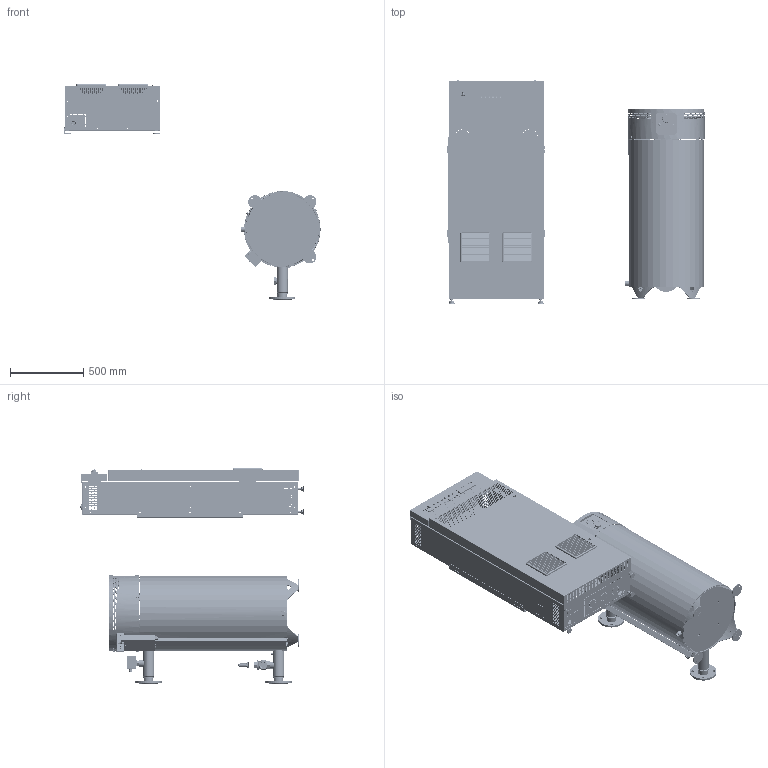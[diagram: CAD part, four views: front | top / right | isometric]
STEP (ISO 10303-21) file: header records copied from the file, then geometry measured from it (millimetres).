
FILE_DESCRIPTION(/* description */ (''),/* implementation_level */ '2;1');
FILE_NAME(/* name */ 'Z:\!!!Обмен файлами\Маркелова Л.В\Задача 144\325-350\Электрокотёл 350 кВт_Shrinkwrap_4.stp',/* time_stamp */ '2022-12-02T11:35:11+03:00',/* author */ ('nvsk-constr2'),/* organization */ (''),/* preprocessor_version */ 'ST-DEVELOPER v18.1',/* originating_system */ 'Autodesk Inventor 2021',/* authorisation */ '');
FILE_SCHEMA (('AUTOMOTIVE_DESIGN { 1 0 10303 214 3 1 1 }'));
Products named in the file (1): Электрокотёл 
350 кВт_Shrinkwrap_4
Bounding box: 1749.13 x 1524 x 1467.76 mm (x, y, z)
Volume: 514207.7 mm3; surface area: 16332514.6 mm2
Topology: 5 solids, 74 shells, 5143 faces, 17305 edges, 11907 vertices
Faces by surface type: plane 2723, cylinder 1978, cone 211, torus 133, bspline 59, sphere 39
Full cylindrical faces by diameter (mm): 3.5 x39, 4 x7, 4.317 x2, 4.5 x2, 5 x4, 5.063 x1, 5.9 x2, 6 x17, 7 x19, 7.119 x1, 7.834 x2, 8 x9, 8.5 x4, 8.8 x2, 9 x13, 9.936 x1, 10 x18, 10.106 x2, 11 x14, 11.433 x2, 11.5 x15, 11.63 x1, 12 x1, 13 x10, 13.5 x9, 13.562 x1, 14 x10, 14.367 x2, 14.63 x1, 14.778 x2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
Entity records: 210858 total; most frequent: CARTESIAN_POINT 49304, DIRECTION 32379, ORIENTED_EDGE 30926, EDGE_CURVE 17302, VERTEX_POINT 11907, AXIS2_PLACEMENT_3D 10957, LINE 10465, VECTOR 10465
